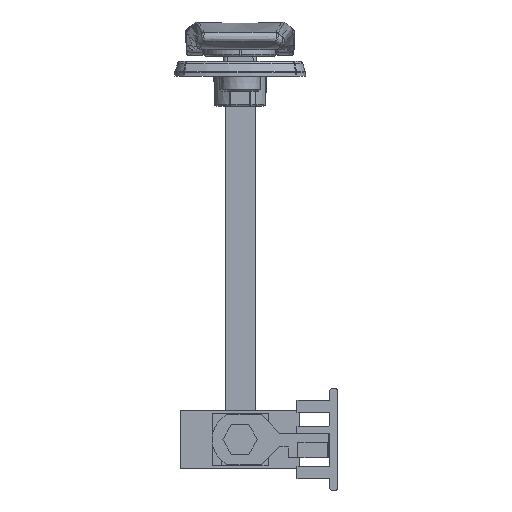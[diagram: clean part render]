
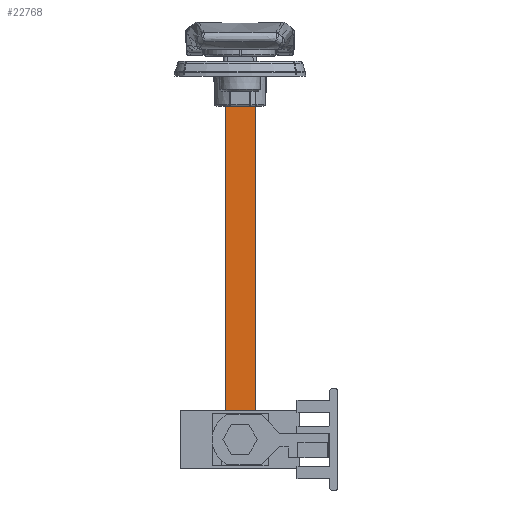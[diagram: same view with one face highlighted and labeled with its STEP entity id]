
A CAD part, front view. The second image highlights one B-rep face of the part: STEP entity #22768.
In plain terms, the highlighted planar face has unit normal (0, -1, 0) as drawn and (-1, 0, 0) by its records, which use the part's own axes.
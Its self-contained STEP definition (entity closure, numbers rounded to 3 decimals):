
#271 = CIRCLE ( 'NONE', #18512, 2.25 ) ;
#472 = VECTOR ( 'NONE', #3779, 1000. ) ;
#1283 = LINE ( 'NONE', #21875, #13709 ) ;
#3779 = DIRECTION ( 'NONE',  ( 0., 1., 0. ) ) ;
#4313 = EDGE_CURVE ( 'NONE', #4471, #18905, #16232, .T. ) ;
#4471 = VERTEX_POINT ( 'NONE', #8063 ) ;
#4976 = ORIENTED_EDGE ( 'NONE', *, *, #23946, .T. ) ;
#5142 = EDGE_CURVE ( 'NONE', #8668, #28461, #271, .T. ) ;
#6534 = CARTESIAN_POINT ( 'NONE',  ( -4., 0., 6.25 ) ) ;
#6976 = DIRECTION ( 'NONE',  ( 0., 0., -1. ) ) ;
#7264 = CARTESIAN_POINT ( 'NONE',  ( -4., 0., 1.75 ) ) ;
#7560 = CARTESIAN_POINT ( 'NONE',  ( -4., 4., 0.5 ) ) ;
#8063 = CARTESIAN_POINT ( 'NONE',  ( -4., 4., 99.5 ) ) ;
#8199 = EDGE_LOOP ( 'NONE', ( #12206, #11283 ) ) ;
#8668 = VERTEX_POINT ( 'NONE', #7264 ) ;
#8846 = CARTESIAN_POINT ( 'NONE',  ( -4., -4., 99.5 ) ) ;
#9965 = FACE_BOUND ( 'NONE', #8199, .T. ) ;
#10334 = DIRECTION ( 'NONE',  ( 0., -1., 0. ) ) ;
#10365 = AXIS2_PLACEMENT_3D ( 'NONE', #24791, #29945, #17256 ) ;
#10608 = EDGE_CURVE ( 'NONE', #27636, #25934, #1283, .T. ) ;
#11283 = ORIENTED_EDGE ( 'NONE', *, *, #5142, .T. ) ;
#12206 = ORIENTED_EDGE ( 'NONE', *, *, #23214, .T. ) ;
#12779 = LINE ( 'NONE', #7560, #26274 ) ;
#13709 = VECTOR ( 'NONE', #31766, 1000. ) ;
#13813 = DIRECTION ( 'NONE',  ( 0., 0., -1. ) ) ;
#14532 = AXIS2_PLACEMENT_3D ( 'NONE', #19580, #24498, #27718 ) ;
#16232 = LINE ( 'NONE', #26210, #20040 ) ;
#17256 = DIRECTION ( 'NONE',  ( 0., 0., -1. ) ) ;
#17770 = FACE_OUTER_BOUND ( 'NONE', #20172, .T. ) ;
#18512 = AXIS2_PLACEMENT_3D ( 'NONE', #29444, #32204, #6976 ) ;
#18905 = VERTEX_POINT ( 'NONE', #24077 ) ;
#19580 = CARTESIAN_POINT ( 'NONE',  ( -4., 4., 100. ) ) ;
#20040 = VECTOR ( 'NONE', #13813, 1000. ) ;
#20172 = EDGE_LOOP ( 'NONE', ( #31613, #30585, #24533, #4976 ) ) ;
#21276 = LINE ( 'NONE', #21453, #472 ) ;
#21453 = CARTESIAN_POINT ( 'NONE',  ( -4., 4., 99.5 ) ) ;
#21875 = CARTESIAN_POINT ( 'NONE',  ( -4., -4., 100. ) ) ;
#22768 = ADVANCED_FACE ( 'NONE', ( #9965, #17770 ), #25133, .F. ) ;
#23214 = EDGE_CURVE ( 'NONE', #28461, #8668, #28595, .T. ) ;
#23946 = EDGE_CURVE ( 'NONE', #27636, #4471, #21276, .T. ) ;
#24077 = CARTESIAN_POINT ( 'NONE',  ( -4., 4., 0.5 ) ) ;
#24498 = DIRECTION ( 'NONE',  ( 1., 0., 0. ) ) ;
#24533 = ORIENTED_EDGE ( 'NONE', *, *, #10608, .F. ) ;
#24791 = CARTESIAN_POINT ( 'NONE',  ( -4., 0., 4. ) ) ;
#25133 = PLANE ( 'NONE',  #14532 ) ;
#25934 = VERTEX_POINT ( 'NONE', #27043 ) ;
#26210 = CARTESIAN_POINT ( 'NONE',  ( -4., 4., 100. ) ) ;
#26274 = VECTOR ( 'NONE', #10334, 1000. ) ;
#27043 = CARTESIAN_POINT ( 'NONE',  ( -4., -4., 0.5 ) ) ;
#27636 = VERTEX_POINT ( 'NONE', #8846 ) ;
#27718 = DIRECTION ( 'NONE',  ( 0., 1., 0. ) ) ;
#28461 = VERTEX_POINT ( 'NONE', #6534 ) ;
#28595 = CIRCLE ( 'NONE', #10365, 2.25 ) ;
#29444 = CARTESIAN_POINT ( 'NONE',  ( -4., 0., 4. ) ) ;
#29945 = DIRECTION ( 'NONE',  ( 1., 0., 0. ) ) ;
#30585 = ORIENTED_EDGE ( 'NONE', *, *, #31586, .T. ) ;
#31586 = EDGE_CURVE ( 'NONE', #18905, #25934, #12779, .T. ) ;
#31613 = ORIENTED_EDGE ( 'NONE', *, *, #4313, .T. ) ;
#31766 = DIRECTION ( 'NONE',  ( 0., 0., -1. ) ) ;
#32204 = DIRECTION ( 'NONE',  ( 1., 0., 0. ) ) ;
